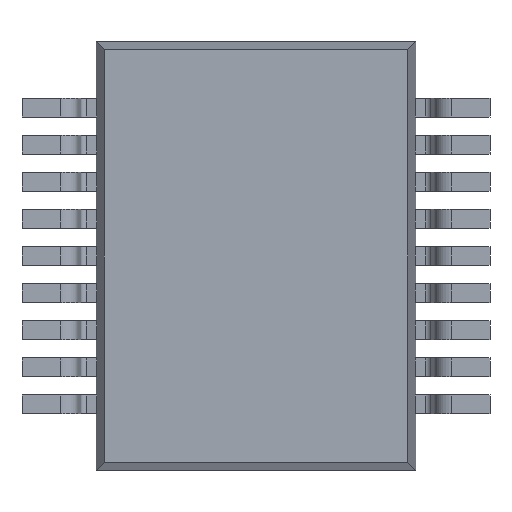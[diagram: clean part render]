
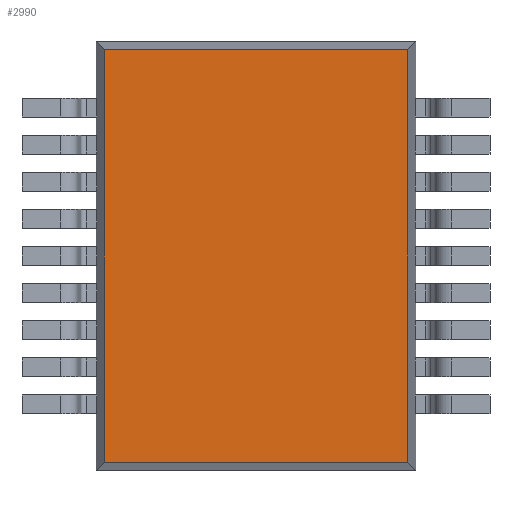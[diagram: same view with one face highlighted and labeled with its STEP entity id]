
A CAD part, front view. The second image highlights one B-rep face of the part: STEP entity #2990.
In plain terms, the highlighted planar face has unit normal (0, -1, 0).
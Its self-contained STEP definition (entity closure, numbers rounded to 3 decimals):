
#190 = DIRECTION ( 'NONE',  ( 0., 0., -1. ) ) ;
#193 = CARTESIAN_POINT ( 'NONE',  ( -2.659, 0.05, 3.75 ) ) ;
#1171 = CARTESIAN_POINT ( 'NONE',  ( 2.8, 0.05, -3.609 ) ) ;
#1172 = DIRECTION ( 'NONE',  ( 1., 0., 0. ) ) ;
#1186 = CARTESIAN_POINT ( 'NONE',  ( 2.8, 0.05, 3.609 ) ) ;
#1187 = DIRECTION ( 'NONE',  ( -1., 0., 0. ) ) ;
#1843 = DIRECTION ( 'NONE',  ( 0., 0., 1. ) ) ;
#1889 = CARTESIAN_POINT ( 'NONE',  ( 2.659, 0.05, 3.75 ) ) ;
#2990 = ADVANCED_FACE ( 'NONE', ( #11539 ), #9374, .F. ) ;
#3281 = LINE ( 'NONE', #193, #3284 ) ;
#3284 = VECTOR ( 'NONE', #190, 1000. ) ;
#3476 = LINE ( 'NONE', #1889, #3483 ) ;
#3483 = VECTOR ( 'NONE', #1843, 1000. ) ;
#3969 = LINE ( 'NONE', #1171, #3972 ) ;
#3972 = VECTOR ( 'NONE', #1172, 1000. ) ;
#3984 = LINE ( 'NONE', #1186, #3987 ) ;
#3987 = VECTOR ( 'NONE', #1187, 1000. ) ;
#5320 = EDGE_CURVE ( 'NONE', #8023, #8021, #3281, .T. ) ;
#5543 = EDGE_CURVE ( 'NONE', #8003, #8017, #3476, .T. ) ;
#6079 = EDGE_CURVE ( 'NONE', #8021, #8003, #3969, .T. ) ;
#6091 = EDGE_CURVE ( 'NONE', #8017, #8023, #3984, .T. ) ;
#6549 = CARTESIAN_POINT ( 'NONE',  ( 2.659, 0.05, -3.609 ) ) ;
#6563 = CARTESIAN_POINT ( 'NONE',  ( 2.659, 0.05, 3.609 ) ) ;
#6567 = CARTESIAN_POINT ( 'NONE',  ( -2.659, 0.05, -3.609 ) ) ;
#6569 = CARTESIAN_POINT ( 'NONE',  ( -2.659, 0.05, 3.609 ) ) ;
#7536 = ORIENTED_EDGE ( 'NONE', *, *, #6091, .T. ) ;
#7537 = ORIENTED_EDGE ( 'NONE', *, *, #5543, .T. ) ;
#7538 = ORIENTED_EDGE ( 'NONE', *, *, #6079, .T. ) ;
#7539 = ORIENTED_EDGE ( 'NONE', *, *, #5320, .T. ) ;
#8003 = VERTEX_POINT ( 'NONE', #6549 ) ;
#8017 = VERTEX_POINT ( 'NONE', #6563 ) ;
#8021 = VERTEX_POINT ( 'NONE', #6567 ) ;
#8023 = VERTEX_POINT ( 'NONE', #6569 ) ;
#8504 = EDGE_LOOP ( 'NONE', ( #7539, #7538, #7537, #7536 ) ) ;
#9352 = DIRECTION ( 'NONE',  ( 0., 0., 1. ) ) ;
#9353 = DIRECTION ( 'NONE',  ( 0., 1., 0. ) ) ;
#9372 = CARTESIAN_POINT ( 'NONE',  ( 0., 0.05, 0. ) ) ;
#9374 = PLANE ( 'NONE',  #10274 ) ;
#10274 = AXIS2_PLACEMENT_3D ( 'NONE', #9372, #9353, #9352 ) ;
#11539 = FACE_OUTER_BOUND ( 'NONE', #8504, .T. ) ;
